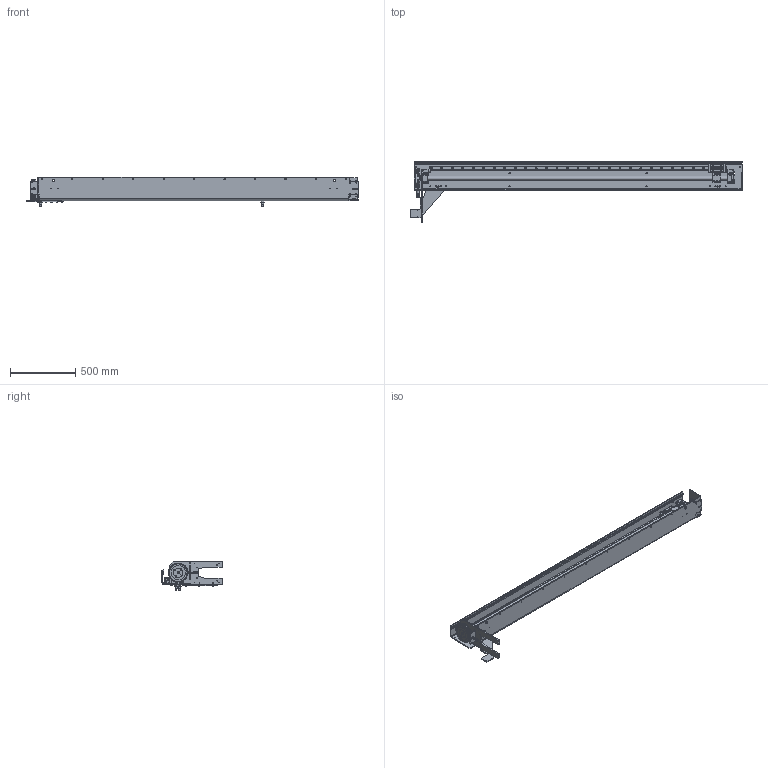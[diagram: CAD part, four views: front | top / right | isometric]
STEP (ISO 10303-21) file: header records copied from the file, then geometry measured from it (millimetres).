
FILE_DESCRIPTION(/* description */ ('BASE PROFILE'),/* implementation_level */ '2;1');
FILE_NAME(/* name */ 'C:\Users\jaccow\AppData\Local\Temp\Cadac\NetworkPub\step\FB988-950.stp',/* time_stamp */ '2018-10-24T16:58:42+02:00',/* author */ ('osr'),/* organization */ (''),/* preprocessor_version */ 'ST-DEVELOPER v16.1',/* originating_system */ 'Autodesk Inventor 2016',/* authorisation */ '');
FILE_SCHEMA (('AUTOMOTIVE_DESIGN { 1 0 10303 214 3 1 1 }'));
Products named in the file (44): FB993-101; FB1005-010; FB1007-021; FB1069-098; CAA613-2511A; PP0509-067; CCE1020-0441A; FB1001-690; PP0504-886; CBA515-0281E; FB1008-111; PP0493-047; FB1045-127; PP0514-719; PP0511-719; FB1002-690; CCA817-0281A; FB1009-104; CBE819-0461B; CAE1080-1081A; FB1010-034; CCE1008-1085C; CCA821-0281A; PP0506-885; FB997-101; FB998-101; CAA1060-1082A; CCA621-0281A; CAA1050-1082A; CCA519-0281A; CCA1021-0285A; FB1011-061; PP0508-155-1; PP0508-155-2; PP0508-155; PP0507-155-1; PP0507-155-2; PP0507-155; FB1060-298; EPRM-PH-BASE-RIGHT-EPRM12(_FS)15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
Assembly tree (153 placements, depth 4):
  FB988-950
    FB993-101
    FB1005-010
    FB1007-021
    FB1069-098
    CAA613-2511A
    PP0509-067  x2
    CCE1020-0441A
    FB1001-690  x2
    PP0504-886
    CBA515-0281E  x4
    FB1008-111  x2
    PP0493-047  x9
    FB1045-127  x9
    PP0514-719
    PP0511-719
    FB1002-690  x2
    CCA817-0281A  x2
    FB1009-104
    CBE819-0461B
    CAE1080-1081A
    FB1010-034
    CCE1008-1085C  x35
    CCA821-0281A  x29
    PP0506-885
    EPRM-PH-BASE-RIGHT-EPRM12(_FS)15
      FB997-101
      FB998-101
      CAA1060-1082A  x4
      CCA621-0281A  x4
      CAA1050-1082A  x4
      CCA519-0281A  x4
      CCA1021-0285A  x2
      FB1011-061  x2
      PP0508-155
        PP0508-155-1
        PP0508-155-2
      PP0507-155
        PP0507-155-1
        PP0507-155-2
      FB1060-298
      CBA515-0281E  x4
    EPRM-PH-BB-MM3
      CCA847-0281A  x6
      CCA837-0281A  x2
Bounding box: 2535 x 466.3 x 222.5 mm (x, y, z)
Volume: 15103832 mm3; surface area: 3793758.7 mm2
Topology: 149 solids, 150 shells, 3667 faces, 9048 edges, 5906 vertices
Faces by surface type: plane 2247, cylinder 877, cone 278, bspline 175, torus 90
Full cylindrical faces by diameter (mm): 3.242 x4, 4 x2, 4.134 x20, 4.917 x25, 5 x12, 5.3 x4, 5.7 x6, 6 x17, 6.4 x4, 6.5 x13, 6.6 x20, 6.647 x49, 6.7 x2, 7 x4, 7.188 x1, 7.323 x1, 7.5 x4, 8 x59, 8.376 x14, 8.4 x1, 8.5 x8, 9 x47, 9.5 x14, 10 x6, 10.106 x2, 11 x4, 11.4 x1, 13 x41, 13.2 x4, 13.6 x9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
Entity records: 71989 total; most frequent: CARTESIAN_POINT 16901, DIRECTION 10594, ORIENTED_EDGE 10426, EDGE_CURVE 5213, AXIS2_PLACEMENT_3D 3760, VERTEX_POINT 3680, EDGE_LOOP 3121, LINE 3074
